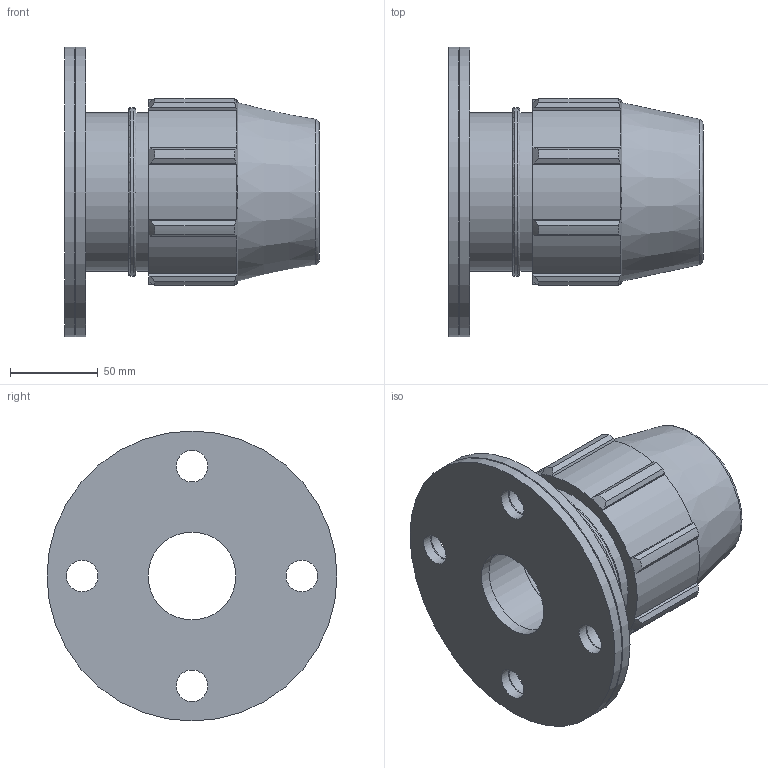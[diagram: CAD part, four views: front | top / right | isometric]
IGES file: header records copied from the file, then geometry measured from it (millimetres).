
Global section: file name: 072200063020_182200063020_0722060630200A.ipt; native system: Autodesk Inventor 2015; preprocessor: unknown; author: KIM; date: 20170606.172337; units: millimetre
Bounding box: 145 x 165 x 165 mm (x, y, z)
Volume: 795777.4 mm3; surface area: 124039.9 mm2
Topology: 1 solids, 1 shells, 100 faces, 286 edges, 195 vertices
Faces by surface type: plane 41, revolution 26, cylinder 21, cone 12
Full cylindrical faces by diameter (mm): 90.4 x2, 96.05 x1, 165 x2
